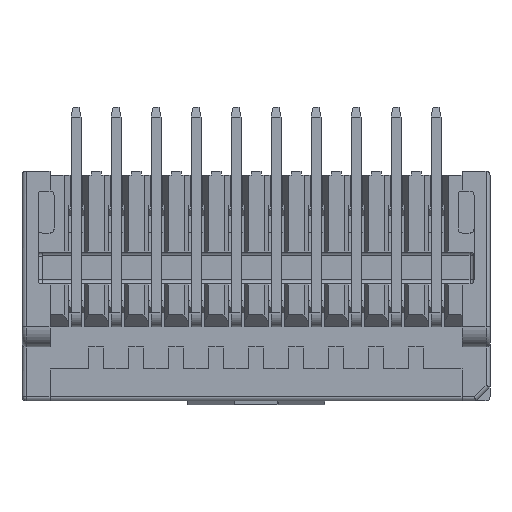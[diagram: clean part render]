
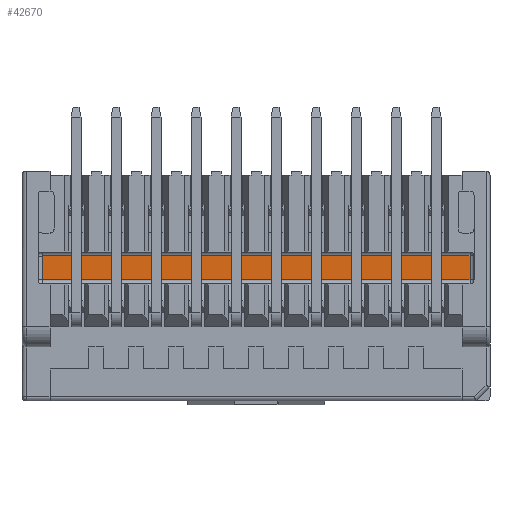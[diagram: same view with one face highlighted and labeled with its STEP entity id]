
A CAD part, front view. The second image highlights one B-rep face of the part: STEP entity #42670.
In plain terms, the highlighted planar face has unit normal (0, -1, 0).
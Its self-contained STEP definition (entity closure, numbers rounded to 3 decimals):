
#3493 = CARTESIAN_POINT ( 'NONE',  ( -10.3, 1.2, -8.6 ) ) ;
#5331 = EDGE_CURVE ( 'NONE', #18058, #24421, #28117, .T. ) ;
#6481 = ORIENTED_EDGE ( 'NONE', *, *, #20920, .T. ) ;
#6561 = VERTEX_POINT ( 'NONE', #38009 ) ;
#8170 = ORIENTED_EDGE ( 'NONE', *, *, #5331, .T. ) ;
#9909 = CARTESIAN_POINT ( 'NONE',  ( -10.7, 1.2, -4.05 ) ) ;
#10204 = VECTOR ( 'NONE', #24299, 1000. ) ;
#10528 = EDGE_CURVE ( 'NONE', #46032, #6561, #27964, .T. ) ;
#11846 = CARTESIAN_POINT ( 'NONE',  ( -10.7, 1.2, -5.25 ) ) ;
#12435 = CARTESIAN_POINT ( 'NONE',  ( 10.7, 1.2, -4.05 ) ) ;
#16949 = VECTOR ( 'NONE', #27469, 1000. ) ;
#17295 = DIRECTION ( 'NONE',  ( 0., 0., -1. ) ) ;
#18058 = VERTEX_POINT ( 'NONE', #21970 ) ;
#20847 = DIRECTION ( 'NONE',  ( 0., 0., 1. ) ) ;
#20920 = EDGE_CURVE ( 'NONE', #24421, #46032, #44254, .T. ) ;
#21970 = CARTESIAN_POINT ( 'NONE',  ( -10.7, 1.2, -5.25 ) ) ;
#24249 = EDGE_LOOP ( 'NONE', ( #6481, #28396, #31937, #8170 ) ) ;
#24299 = DIRECTION ( 'NONE',  ( 1., 0., 0. ) ) ;
#24421 = VERTEX_POINT ( 'NONE', #32171 ) ;
#24613 = VECTOR ( 'NONE', #20847, 1000. ) ;
#27469 = DIRECTION ( 'NONE',  ( -1., 0., 0. ) ) ;
#27964 = LINE ( 'NONE', #12435, #16949 ) ;
#28117 = LINE ( 'NONE', #11846, #10204 ) ;
#28396 = ORIENTED_EDGE ( 'NONE', *, *, #10528, .T. ) ;
#31228 = DIRECTION ( 'NONE',  ( 0., -1., 0. ) ) ;
#31937 = ORIENTED_EDGE ( 'NONE', *, *, #34608, .T. ) ;
#32171 = CARTESIAN_POINT ( 'NONE',  ( 10.7, 1.2, -5.25 ) ) ;
#34608 = EDGE_CURVE ( 'NONE', #6561, #18058, #44770, .T. ) ;
#36164 = VECTOR ( 'NONE', #17295, 1000. ) ;
#36880 = CARTESIAN_POINT ( 'NONE',  ( 10.7, 1.2, -5.25 ) ) ;
#38009 = CARTESIAN_POINT ( 'NONE',  ( -10.7, 1.2, -4.05 ) ) ;
#38344 = PLANE ( 'NONE',  #41977 ) ;
#41977 = AXIS2_PLACEMENT_3D ( 'NONE', #3493, #31228, #46732 ) ;
#42405 = FACE_OUTER_BOUND ( 'NONE', #24249, .T. ) ;
#42670 = ADVANCED_FACE ( 'NONE', ( #42405 ), #38344, .T. ) ;
#44254 = LINE ( 'NONE', #36880, #24613 ) ;
#44770 = LINE ( 'NONE', #9909, #36164 ) ;
#46032 = VERTEX_POINT ( 'NONE', #46057 ) ;
#46057 = CARTESIAN_POINT ( 'NONE',  ( 10.7, 1.2, -4.05 ) ) ;
#46732 = DIRECTION ( 'NONE',  ( 0., 0., -1. ) ) ;
